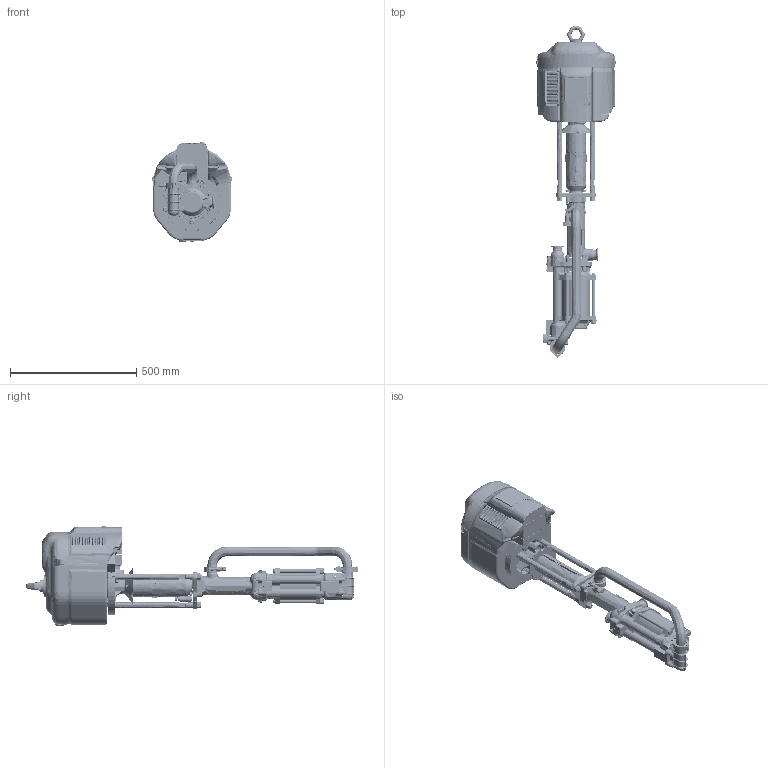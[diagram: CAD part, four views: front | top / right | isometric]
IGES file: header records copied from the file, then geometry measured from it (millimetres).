
Start section:  PTC IGES file: js40l8-en-g.igs
Global section: file name: js40l8-en-g.igs; native system: Creo Parametric by PTC Inc.; preprocessor: 2019030; author: qusrh3; organization: Unknown; date: 20200305.090542; units: inch
Bounding box: 314.71 x 1312.57 x 394.37 mm (x, y, z)
Surface area: 3117935.1 mm2 (no closed solid volume)
Topology: 0 solids, 0 shells, 6116 faces, 32188 edges, 32166 vertices
Faces by surface type: bspline 3130, revolution 2966, extrusion 20
